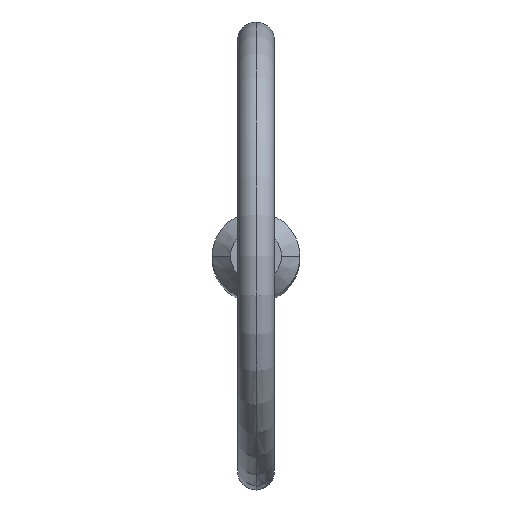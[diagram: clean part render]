
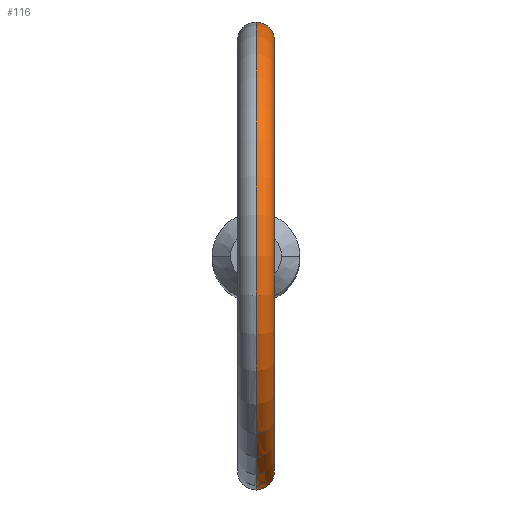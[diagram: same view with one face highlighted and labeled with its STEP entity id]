
A CAD part, top view. The second image highlights one B-rep face of the part: STEP entity #116.
In plain terms, the highlighted toroidal (fillet/blend) face has major radius 11.7 mm and minor radius 1 mm.
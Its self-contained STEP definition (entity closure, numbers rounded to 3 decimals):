
#6 = CARTESIAN_POINT ( 'NONE',  ( 0.267, 2.368, 70.837 ) ) ;
#15 = ORIENTED_EDGE ( 'NONE', *, *, #229, .T. ) ;
#19 = EDGE_CURVE ( 'NONE', #388, #192, #247, .T. ) ;
#24 = CARTESIAN_POINT ( 'NONE',  ( 0., -2.38, 68.825 ) ) ;
#28 = CARTESIAN_POINT ( 'NONE',  ( 0., 0., 81.3 ) ) ;
#29 = CARTESIAN_POINT ( 'NONE',  ( 0.625, -2.299, 69.021 ) ) ;
#31 = CARTESIAN_POINT ( 'NONE',  ( 1.003, 2.158, 69.697 ) ) ;
#33 = CARTESIAN_POINT ( 'NONE',  ( 0.267, 2.368, 68.85 ) ) ;
#36 = DIRECTION ( 'NONE',  ( 1., 0., 0. ) ) ;
#45 = VERTEX_POINT ( 'NONE', #374 ) ;
#53 = CARTESIAN_POINT ( 'NONE',  ( 0.865, -2.218, 70.34 ) ) ;
#61 = ORIENTED_EDGE ( 'NONE', *, *, #395, .F. ) ;
#62 = DIRECTION ( 'NONE',  ( 0., 0., -1. ) ) ;
#83 = CARTESIAN_POINT ( 'NONE',  ( 0.134, -2.38, 70.868 ) ) ;
#85 = CARTESIAN_POINT ( 'NONE',  ( 0.268, -2.368, 70.837 ) ) ;
#87 = EDGE_CURVE ( 'NONE', #295, #388, #464, .T. ) ;
#94 = CARTESIAN_POINT ( 'NONE',  ( 0.996, -2.162, 69.964 ) ) ;
#102 = CARTESIAN_POINT ( 'NONE',  ( 0.811, 2.24, 69.206 ) ) ;
#104 = DIRECTION ( 'NONE',  ( 1., 0., 0. ) ) ;
#105 = CARTESIAN_POINT ( 'NONE',  ( 0., 2.38, 70.868 ) ) ;
#107 = CARTESIAN_POINT ( 'NONE',  ( 0., 0., 81.3 ) ) ;
#114 = CARTESIAN_POINT ( 'NONE',  ( 0.509, 2.328, 70.724 ) ) ;
#116 = ADVANCED_FACE ( 'NONE', ( #261 ), #306, .T. ) ;
#118 = CARTESIAN_POINT ( 'NONE',  ( 0.134, 2.38, 70.868 ) ) ;
#123 = AXIS2_PLACEMENT_3D ( 'NONE', #436, #36, #62 ) ;
#131 = DIRECTION ( 'NONE',  ( 1., 0., 0. ) ) ;
#139 = CARTESIAN_POINT ( 'NONE',  ( 0.864, 2.218, 70.341 ) ) ;
#141 = CARTESIAN_POINT ( 'NONE',  ( 0.133, 2.38, 68.825 ) ) ;
#146 = CARTESIAN_POINT ( 'NONE',  ( 0., 2.38, 68.825 ) ) ;
#159 = AXIS2_PLACEMENT_3D ( 'NONE', #28, #131, #273 ) ;
#164 = EDGE_LOOP ( 'NONE', ( #61, #15, #275, #290 ) ) ;
#166 = CARTESIAN_POINT ( 'NONE',  ( 0.885, -2.21, 69.317 ) ) ;
#170 = CARTESIAN_POINT ( 'NONE',  ( 0.615, -2.301, 70.644 ) ) ;
#175 = CARTESIAN_POINT ( 'NONE',  ( 0.614, 2.301, 70.645 ) ) ;
#192 = VERTEX_POINT ( 'NONE', #348 ) ;
#199 = CARTESIAN_POINT ( 'NONE',  ( 0.811, -2.24, 69.206 ) ) ;
#218 = CARTESIAN_POINT ( 'NONE',  ( 0., 2.38, 70.868 ) ) ;
#229 = EDGE_CURVE ( 'NONE', #45, #192, #450, .T. ) ;
#233 = CARTESIAN_POINT ( 'NONE',  ( 0.133, -2.38, 68.825 ) ) ;
#236 = CARTESIAN_POINT ( 'NONE',  ( 0.625, 2.299, 69.021 ) ) ;
#241 = CARTESIAN_POINT ( 'NONE',  ( 0.981, 2.169, 69.562 ) ) ;
#247 = B_SPLINE_CURVE_WITH_KNOTS ( 'NONE', 3,
 ( #300, #83, #85, #416, #170, #391, #53, #426, #94, #342, #379, #166, #199, #29, #420, #456, #233, #24 ),
 .UNSPECIFIED., .F., .F.,
 ( 4, 2, 2, 2, 2, 2, 2, 2, 4 ),
 ( 0.003, 0.003, 0.003, 0.004, 0.004, 0.005, 0.005, 0.005, 0.006 ),
 .UNSPECIFIED. ) ;
#248 = CARTESIAN_POINT ( 'NONE',  ( 0.513, 2.327, 68.949 ) ) ;
#261 = FACE_OUTER_BOUND ( 'NONE', #164, .T. ) ;
#273 = DIRECTION ( 'NONE',  ( 0., 0., -1. ) ) ;
#275 = ORIENTED_EDGE ( 'NONE', *, *, #19, .F. ) ;
#285 = CARTESIAN_POINT ( 'NONE',  ( 0.884, 2.21, 69.317 ) ) ;
#290 = ORIENTED_EDGE ( 'NONE', *, *, #87, .F. ) ;
#295 = VERTEX_POINT ( 'NONE', #105 ) ;
#300 = CARTESIAN_POINT ( 'NONE',  ( 0., -2.38, 70.868 ) ) ;
#306 = TOROIDAL_SURFACE ( 'NONE', #344, 11.7, 1. ) ;
#318 = CARTESIAN_POINT ( 'NONE',  ( 0.996, 2.162, 69.964 ) ) ;
#327 = CARTESIAN_POINT ( 'NONE',  ( 0., -2.38, 70.868 ) ) ;
#342 = CARTESIAN_POINT ( 'NONE',  ( 1.003, -2.158, 69.699 ) ) ;
#344 = AXIS2_PLACEMENT_3D ( 'NONE', #107, #104, #462 ) ;
#348 = CARTESIAN_POINT ( 'NONE',  ( 0., -2.38, 68.825 ) ) ;
#351 = CARTESIAN_POINT ( 'NONE',  ( 0.966, 2.176, 70.097 ) ) ;
#374 = CARTESIAN_POINT ( 'NONE',  ( 0., 2.38, 68.825 ) ) ;
#376 = B_SPLINE_CURVE_WITH_KNOTS ( 'NONE', 3,
 ( #146, #141, #33, #248, #236, #102, #285, #241, #31, #318, #351, #139, #398, #175, #114, #6, #118, #218 ),
 .UNSPECIFIED., .F., .F.,
 ( 4, 2, 2, 2, 2, 2, 2, 2, 4 ),
 ( 0.001, 0.001, 0.001, 0.002, 0.002, 0.003, 0.003, 0.003, 0.004 ),
 .UNSPECIFIED. ) ;
#379 = CARTESIAN_POINT ( 'NONE',  ( 0.981, -2.169, 69.564 ) ) ;
#388 = VERTEX_POINT ( 'NONE', #327 ) ;
#391 = CARTESIAN_POINT ( 'NONE',  ( 0.793, -2.246, 70.452 ) ) ;
#395 = EDGE_CURVE ( 'NONE', #45, #295, #376, .T. ) ;
#398 = CARTESIAN_POINT ( 'NONE',  ( 0.793, 2.246, 70.453 ) ) ;
#416 = CARTESIAN_POINT ( 'NONE',  ( 0.508, -2.328, 70.724 ) ) ;
#420 = CARTESIAN_POINT ( 'NONE',  ( 0.513, -2.327, 68.948 ) ) ;
#426 = CARTESIAN_POINT ( 'NONE',  ( 0.966, -2.176, 70.097 ) ) ;
#436 = CARTESIAN_POINT ( 'NONE',  ( 0., 0., 81.3 ) ) ;
#450 = CIRCLE ( 'NONE', #123, 12.7 ) ;
#456 = CARTESIAN_POINT ( 'NONE',  ( 0.268, -2.368, 68.851 ) ) ;
#462 = DIRECTION ( 'NONE',  ( 0., 0., -1. ) ) ;
#464 = CIRCLE ( 'NONE', #159, 10.7 ) ;
